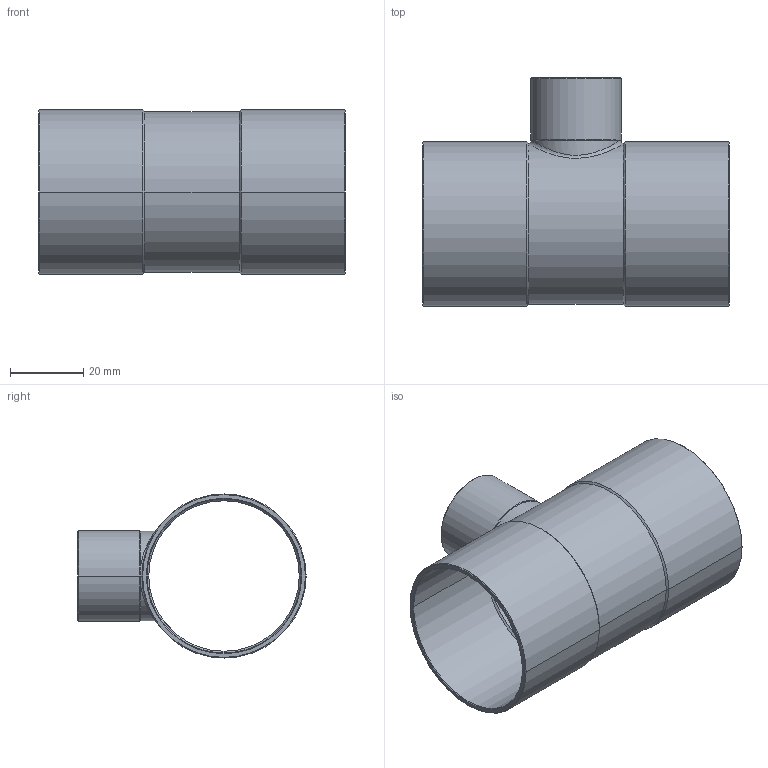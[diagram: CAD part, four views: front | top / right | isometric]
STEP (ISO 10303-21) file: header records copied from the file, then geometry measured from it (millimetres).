
FILE_DESCRIPTION((''),'2;1');
FILE_NAME('G:\Technics\CAD\Bauteile\15130\15130422242.stp','2005-11-02T10:19:51',('boden'),(''),'Autodesk Inventor 8','Autodesk Inventor 8','');
FILE_SCHEMA(('AUTOMOTIVE_DESIGN { 1 0 10303 214 1 1 1 1 }'));
Length unit declared in the file: millimetre
Products named in the file (1): 15130422242
Bounding box: 84 x 62.48 x 44.95 mm (x, y, z)
Volume: 17515.5 mm3; surface area: 25397.6 mm2
Topology: 1 solids, 1 shells, 49 faces, 114 edges, 66 vertices
Faces by surface type: cone 24, cylinder 20, plane 3, bspline 2
Entity records: 1836 total; most frequent: CARTESIAN_POINT 707, DIRECTION 236, ORIENTED_EDGE 228, EDGE_CURVE 114, AXIS2_PLACEMENT_3D 98, VERTEX_POINT 66, EDGE_LOOP 52, CIRCLE 50
